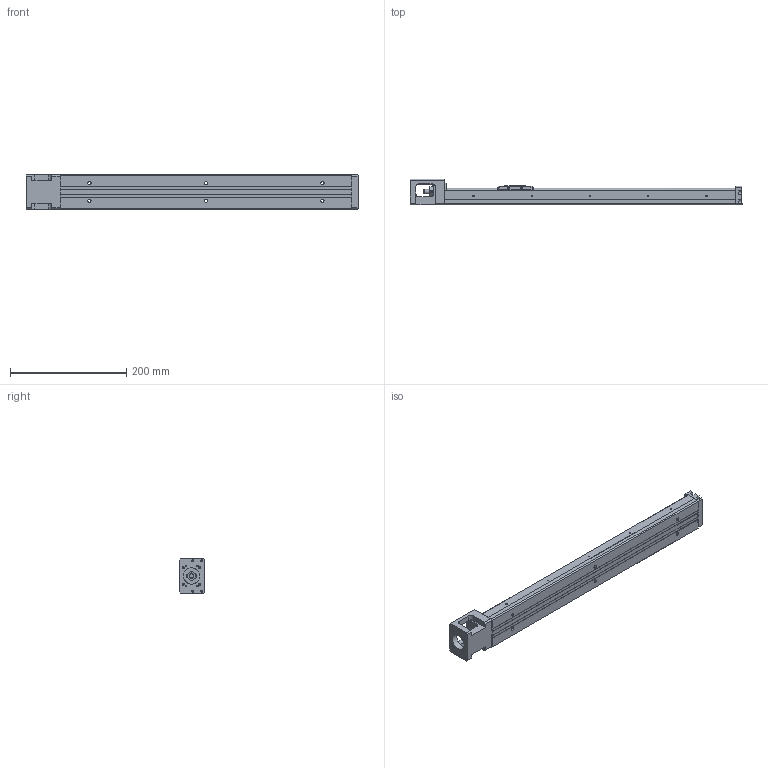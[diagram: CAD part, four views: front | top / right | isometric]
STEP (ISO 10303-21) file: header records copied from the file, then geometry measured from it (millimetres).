
FILE_DESCRIPTION(/* description */ (''),/* implementation_level */ '2;1');
FILE_NAME(/* name */ 'KP33S-500C02-D.stp',/* time_stamp */ '2020-07-01T11:59:58+08:00',/* author */ (''),/* organization */ (''),/* preprocessor_version */ 'ST-DEVELOPER v14',/* originating_system */ 'SIEMENS PLM Software NX 8.0',/* authorisation */ '');
FILE_SCHEMA (('AUTOMOTIVE_DESIGN { 1 0 10303 214 3 1 1 1 }'));
Length unit declared in the file: millimetre
Products named in the file (1): model1
Bounding box: 570 x 44.45 x 60 mm (x, y, z)
Volume: 592527.3 mm3; surface area: 166593.4 mm2
Topology: 5 solids, 14 shells, 613 faces, 1560 edges, 1026 vertices
Faces by surface type: plane 361, cylinder 171, bspline 31, extrusion 21, cone 20, torus 7, sphere 2
Full cylindrical faces by diameter (mm): 1.6 x3, 1.65 x4, 2.15 x5, 2.42 x4, 2.45 x2, 2.5 x12, 3.2 x4, 3.3 x4, 3.4 x4, 3.5 x10, 3.969 x1, 4 x4, 4.001 x1, 4.135 x2, 5.5 x6, 6 x4, 7.6 x1, 8 x5, 9.5 x6, 10.72 x3, 11.8 x2, 12 x6, 12.8 x1, 13 x2, 14 x1, 16 x4, 21.5 x1, 28 x1
Entity records: 33369 total; most frequent: CARTESIAN_POINT 15131, DIRECTION 2800, ORIENTED_EDGE 2724, EDGE_CURVE 1362, AXIS2_PLACEMENT_3D 985, VERTEX_POINT 960, EDGE_LOOP 854, VECTOR 830
